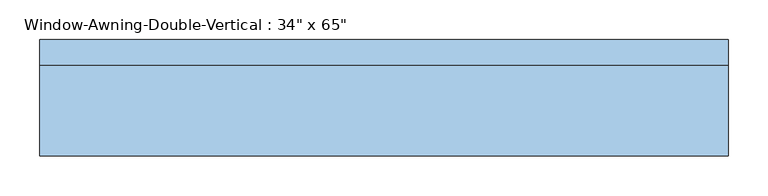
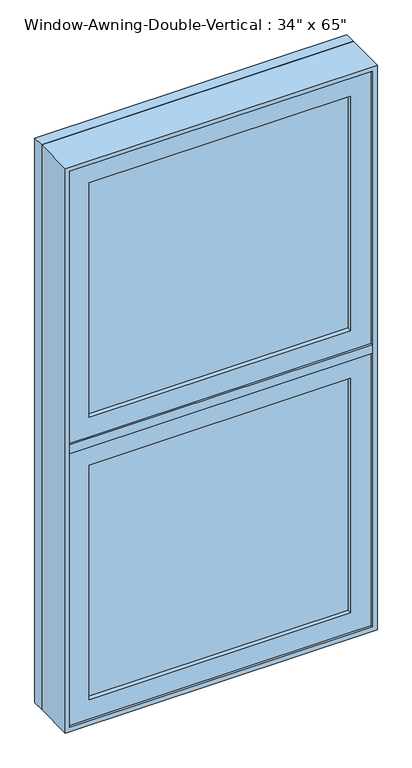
"""IFC4 building model written with IfcOpenShell, lengths in millimetres: window geometry."""

from ifc_helpers import new_model, si_unit, frame, origin, place, context, project, spatial, polyline, outline, extrude, faceted_brep, source, transform, mapped, element, save


def window_7ac30025(model_context):
    return source(origin(), model_context, "Body", "SolidModel", [
        extrude(outline(polyline([(2565.4, -431.8), (914.4, -431.8), (914.4, 431.8), (2565.4, 431.8), (2565.4, -431.8)]), holes=[polyline([(2546.35, -412.75), (2546.35, 412.75), (933.45, 412.75), (933.45, -412.75), (2546.35, -412.75)])]), frame((0.0, 31.75, 0.0), z_axis=(0.0, 1.0, 0.0), x_axis=(0.0, 0.0, 1.0)), (0.0, 0.0, 1.0), 31.75),
        faceted_brep([(-431.8, 31.75, 2565.4), (-431.8, 31.75, 914.4), (-431.8, -82.55, 914.4), (-431.8, -82.55, 2565.4), (-419.1, -82.55, 2552.7), (-419.1, -82.55, 927.1), (-419.1, -31.75, 927.1), (-419.1, -31.75, 2552.7), (-400.05, -31.75, 2533.65), (-400.05, -31.75, 946.15), (-400.05, 31.75, 946.15), (-400.05, 31.75, 2533.65), (431.8, 31.75, 914.4), (431.8, -82.55, 914.4), (419.1, -82.55, 927.1), (419.1, -31.75, 927.1), (400.05, -31.75, 946.15), (400.05, 31.75, 946.15), (431.8, 31.75, 2565.4), (431.8, -82.55, 2565.4), (419.1, -82.55, 2552.7), (419.1, -31.75, 2552.7), (400.05, -31.75, 2533.65), (400.05, 31.75, 2533.65)], [[[0, 1, 2, 3]], [[4, 5, 6, 7]], [[8, 9, 10, 11]], [[1, 12, 13, 2]], [[5, 14, 15, 6]], [[9, 16, 17, 10]], [[12, 18, 19, 13]], [[14, 20, 21, 15]], [[16, 22, 23, 17]], [[1, 0, 18, 12], [11, 10, 17, 23]], [[18, 0, 3, 19]], [[3, 2, 13, 19], [5, 4, 20, 14]], [[20, 4, 7, 21]], [[7, 6, 15, 21], [9, 8, 22, 16]], [[22, 8, 11, 23]]]),
        extrude(outline(polyline([(2552.7, -419.1), (1752.6, -419.1), (1752.6, 419.1), (2552.7, 419.1), (2552.7, -419.1)]), holes=[polyline([(1809.75, -361.95), (2495.55, -361.95), (2495.55, 361.95), (1809.75, 361.95), (1809.75, -361.95)])]), frame((0.0, -76.2, 0.0), z_axis=(0.0, 1.0, 0.0), x_axis=(0.0, 0.0, 1.0)), (0.0, 0.0, 1.0), 44.45),
        extrude(outline(polyline([(361.95, -63.5), (-361.95, -63.5), (-361.95, -57.15), (361.95, -57.15), (361.95, -63.5)])), frame((0.0, 0.0, 1809.75), z_axis=(0.0, 0.0, 1.0), x_axis=(1.0, 0.0, 0.0)), (0.0, 0.0, 1.0), 685.8),
        extrude(outline(polyline([(361.95, -50.8), (-361.95, -50.8), (-361.95, -44.45), (361.95, -44.45), (361.95, -50.8)])), frame((0.0, 0.0, 1809.75), z_axis=(0.0, 0.0, 1.0), x_axis=(1.0, 0.0, 0.0)), (0.0, 0.0, 1.0), 685.8),
        extrude(outline(polyline([(361.95, -63.5), (-361.95, -63.5), (-361.95, -57.15), (361.95, -57.15), (361.95, -63.5)])), frame((0.0, 0.0, 984.25), z_axis=(0.0, 0.0, 1.0), x_axis=(1.0, 0.0, 0.0)), (0.0, 0.0, 1.0), 685.8),
        extrude(outline(polyline([(361.95, -50.8), (-361.95, -50.8), (-361.95, -44.45), (361.95, -44.45), (361.95, -50.8)])), frame((0.0, 0.0, 984.25), z_axis=(0.0, 0.0, 1.0), x_axis=(1.0, 0.0, 0.0)), (0.0, 0.0, 1.0), 685.8),
        extrude(outline(polyline([(-419.1, -31.75), (-400.05, -31.75), (-400.05, 31.75), (400.05, 31.75), (400.05, -31.75), (419.1, -31.75), (419.1, -82.55), (-419.1, -82.55), (-419.1, -31.75)])), frame((0.0, 0.0, 1727.2), z_axis=(0.0, 0.0, 1.0), x_axis=(1.0, 0.0, 0.0)), (0.0, 0.0, 1.0), 25.4),
        extrude(outline(polyline([(927.1, -419.1), (927.1, 419.1), (1727.2, 419.1), (1727.2, -419.1), (927.1, -419.1)]), holes=[polyline([(984.25, 361.95), (984.25, -361.95), (1670.05, -361.95), (1670.05, 361.95), (984.25, 361.95)])]), frame((0.0, -76.2, 0.0), z_axis=(0.0, 1.0, 0.0), x_axis=(0.0, 0.0, 1.0)), (0.0, 0.0, 1.0), 44.45),
    ])


if __name__ == "__main__":
    model = new_model("IFC4")
    model_context = context("Model", 3, world=origin())
    ifc_project = project(units=[si_unit("LENGTHUNIT", "METRE", prefix="MILLI")], contexts=[model_context])
    site = spatial("IfcSite", under=ifc_project)
    building = spatial("IfcBuilding", under=site)
    placement = place(None, origin())
    window_shape = window_7ac30025(model_context)
    element("IfcWindow", 1, ObjectType="Window-Awning-Double-Vertical : 34\" x 65\"", at=placement, inside=building, context=model_context, shape_type="MappedRepresentation", body=[
        mapped(window_shape, transform((0.0, 0.0, 0.0), x_axis=(1.0, 0.0, 0.0), y_axis=(0.0, 1.0, 0.0), z_axis=(0.0, 0.0, 1.0))),
    ])
    save(model, "model.ifc")
